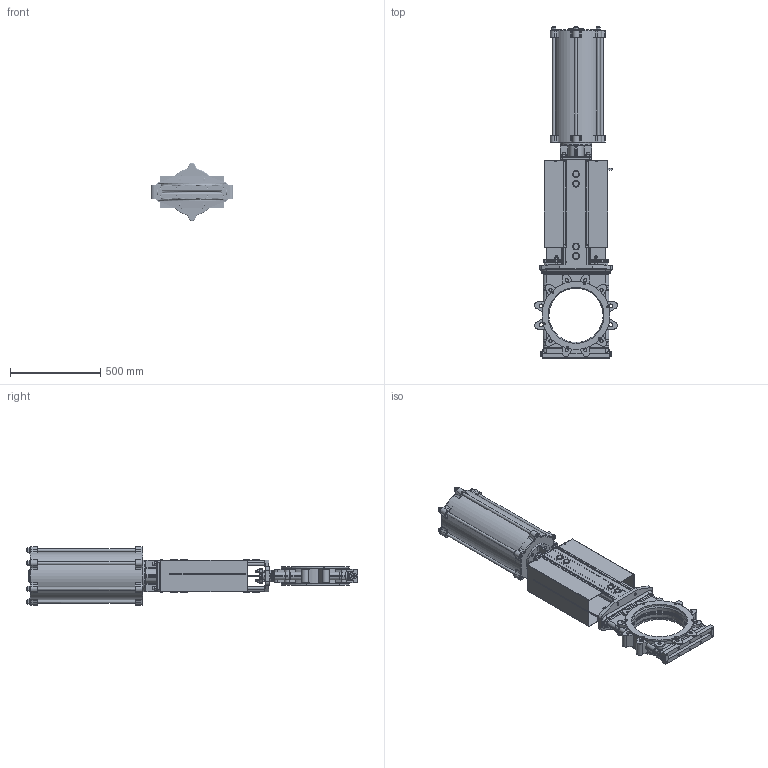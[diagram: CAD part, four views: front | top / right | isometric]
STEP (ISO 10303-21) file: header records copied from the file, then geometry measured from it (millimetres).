
FILE_DESCRIPTION(/* description */ (''),/* implementation_level */ '2;1');
FILE_NAME(/* name */ 'F:\3D-block färdiga för export\SLV-SLF\DN 300\SLV-DN300-PN10-FRSC250-400 .stp',/* time_stamp */ '2020-12-16T09:49:47+01:00',/* author */ ('MATZET'),/* organization */ (''),/* preprocessor_version */ 'ST-DEVELOPER v18',/* originating_system */ 'Autodesk Inventor 2020',/* authorisation */ '');
FILE_SCHEMA (('AUTOMOTIVE_DESIGN { 1 0 10303 214 3 1 1 }'));
Products named in the file (1): SLV-DN300-PN10-FRSC250-400 
Bounding box: 457.28 x 1837 x 322 mm (x, y, z)
Volume: 22564431 mm3; surface area: 5319614.3 mm2
Topology: 1 solids, 1 shells, 3041 faces, 7814 edges, 4937 vertices
Faces by surface type: plane 1198, cylinder 859, cone 334, torus 299, bspline 231, sphere 120
Full cylindrical faces by diameter (mm): 3 x12, 3.5 x8, 3.6 x2, 4.2 x16, 4.917 x8, 6 x12, 6.4 x1, 6.647 x4, 7 x2, 7.5 x16, 8.376 x4, 8.5 x10, 9 x1, 9.5 x2, 10 x12, 10.106 x2, 11 x12, 12 x17, 12.5 x6, 13 x10, 13.835 x4, 14 x7, 15 x4, 16 x28, 17 x14, 17.5 x22, 18 x1, 18.2 x4, 18.5 x2, 18.631 x2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
Entity records: 113197 total; most frequent: CARTESIAN_POINT 36262, DIRECTION 16160, ORIENTED_EDGE 15492, EDGE_CURVE 7746, AXIS2_PLACEMENT_3D 6644, VERTEX_POINT 4937, CIRCLE 3637, EDGE_LOOP 3461
